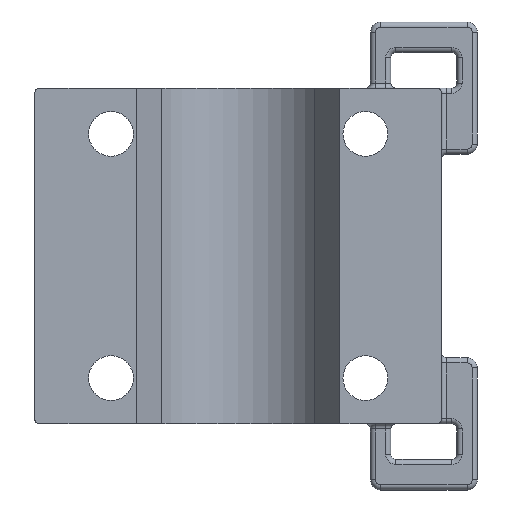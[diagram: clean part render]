
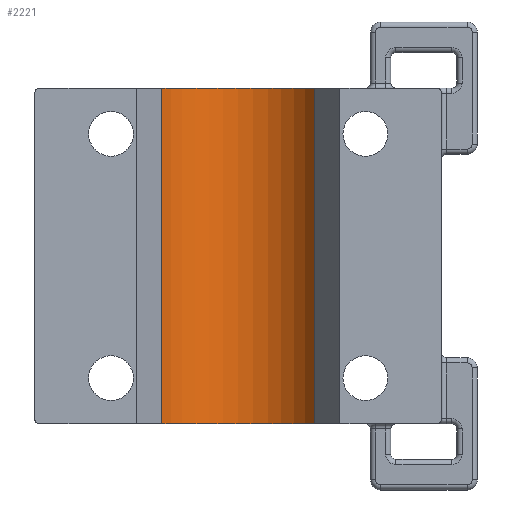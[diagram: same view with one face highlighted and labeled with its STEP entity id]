
A CAD part, front view. The second image highlights one B-rep face of the part: STEP entity #2221.
In plain terms, the highlighted cylindrical face has radius 9 mm (diameter 18 mm), a partial arc.
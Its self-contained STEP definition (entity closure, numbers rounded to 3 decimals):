
#526 = DIRECTION ( 'NONE',  ( 0., 0., -1. ) ) ;
#1054 = VECTOR ( 'NONE', #5873, 1000. ) ;
#1083 = CARTESIAN_POINT ( 'NONE',  ( 7.5, 4.975, -16.5 ) ) ;
#1091 = DIRECTION ( 'NONE',  ( 1., 0., 0. ) ) ;
#1168 = DIRECTION ( 'NONE',  ( 0., 0., -1. ) ) ;
#1260 = CARTESIAN_POINT ( 'NONE',  ( 0., 0., -16.5 ) ) ;
#1617 = ORIENTED_EDGE ( 'NONE', *, *, #6904, .F. ) ;
#1978 = EDGE_CURVE ( 'NONE', #7118, #3145, #4699, .T. ) ;
#2099 = CARTESIAN_POINT ( 'NONE',  ( 7.5, 4.975, 16.5 ) ) ;
#2177 = CARTESIAN_POINT ( 'NONE',  ( 0., 0., 16.5 ) ) ;
#2221 = ADVANCED_FACE ( 'NONE', ( #3716 ), #3186, .F. ) ;
#2643 = CIRCLE ( 'NONE', #4982, 9. ) ;
#2846 = VERTEX_POINT ( 'NONE', #1083 ) ;
#3046 = ORIENTED_EDGE ( 'NONE', *, *, #7941, .T. ) ;
#3083 = VECTOR ( 'NONE', #4007, 1000. ) ;
#3094 = CARTESIAN_POINT ( 'NONE',  ( 7.5, 4.975, 16.5 ) ) ;
#3145 = VERTEX_POINT ( 'NONE', #3094 ) ;
#3186 = CYLINDRICAL_SURFACE ( 'NONE', #6756, 9. ) ;
#3424 = EDGE_CURVE ( 'NONE', #3489, #2846, #2643, .T. ) ;
#3481 = CARTESIAN_POINT ( 'NONE',  ( -7.5, 4.975, 16.5 ) ) ;
#3489 = VERTEX_POINT ( 'NONE', #6705 ) ;
#3507 = DIRECTION ( 'NONE',  ( 0., 0., -1. ) ) ;
#3716 = FACE_OUTER_BOUND ( 'NONE', #5647, .T. ) ;
#3999 = ORIENTED_EDGE ( 'NONE', *, *, #3424, .T. ) ;
#4007 = DIRECTION ( 'NONE',  ( 0., 0., -1. ) ) ;
#4236 = DIRECTION ( 'NONE',  ( 1., 0., 0. ) ) ;
#4275 = DIRECTION ( 'NONE',  ( -1., 0., 0. ) ) ;
#4699 = CIRCLE ( 'NONE', #7441, 9. ) ;
#4982 = AXIS2_PLACEMENT_3D ( 'NONE', #1260, #1168, #1091 ) ;
#5312 = LINE ( 'NONE', #3481, #1054 ) ;
#5647 = EDGE_LOOP ( 'NONE', ( #3999, #1617, #7859, #3046 ) ) ;
#5662 = CARTESIAN_POINT ( 'NONE',  ( 0., 0., 16.5 ) ) ;
#5873 = DIRECTION ( 'NONE',  ( 0., 0., -1. ) ) ;
#6705 = CARTESIAN_POINT ( 'NONE',  ( -7.5, 4.975, -16.5 ) ) ;
#6756 = AXIS2_PLACEMENT_3D ( 'NONE', #5662, #526, #4275 ) ;
#6904 = EDGE_CURVE ( 'NONE', #3145, #2846, #7799, .T. ) ;
#7118 = VERTEX_POINT ( 'NONE', #7952 ) ;
#7441 = AXIS2_PLACEMENT_3D ( 'NONE', #2177, #3507, #4236 ) ;
#7799 = LINE ( 'NONE', #2099, #3083 ) ;
#7859 = ORIENTED_EDGE ( 'NONE', *, *, #1978, .F. ) ;
#7941 = EDGE_CURVE ( 'NONE', #7118, #3489, #5312, .T. ) ;
#7952 = CARTESIAN_POINT ( 'NONE',  ( -7.5, 4.975, 16.5 ) ) ;
